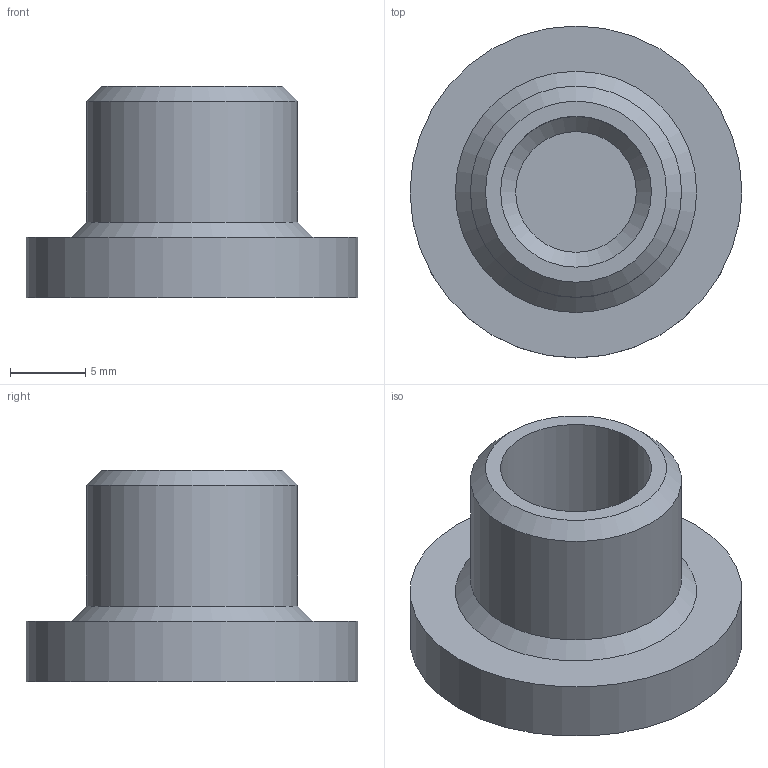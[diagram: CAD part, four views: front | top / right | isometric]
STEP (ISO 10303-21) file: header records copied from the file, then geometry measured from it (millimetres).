
FILE_DESCRIPTION(/* description */ ('','CAx-IF Rec.Pracs.---Representation and Presentation of Product Manufacturing Information (PMI)---4.0---2014-10-13'),/* implementation_level */ '2;1');
FILE_NAME(/* name */ '04 dampener x8 v2.step',/* time_stamp */ '2025-03-15T20:38:29+01:00',/* author */ (''),/* organization */ (''),/* preprocessor_version */ 'ST-DEVELOPER v20',/* originating_system */ 'Autodesk Translation Framework v13.20.0.188',/* authorisation */ '');
FILE_SCHEMA (('AP242_MANAGED_MODEL_BASED_3D_ENGINEERING_MIM_LF { 1 0 10303 442 1 1 4 }'));
Length unit declared in the file: millimetre
Products named in the file (1): flexi1
Bounding box: 22 x 22 x 14 mm (x, y, z)
Volume: 2291.3 mm3; surface area: 1719.5 mm2
Topology: 1 solids, 1 shells, 10 faces, 15 edges, 9 vertices
Faces by surface type: plane 4, cone 3, cylinder 3
Full cylindrical faces by diameter (mm): 10 x1, 14 x1, 22 x1
Entity records: 257 total; most frequent: DIRECTION 46, CARTESIAN_POINT 35, ORIENTED_EDGE 30, AXIS2_PLACEMENT_3D 20, EDGE_CURVE 15, EDGE_LOOP 12, FACE_OUTER_BOUND 10, ADVANCED_FACE 10
